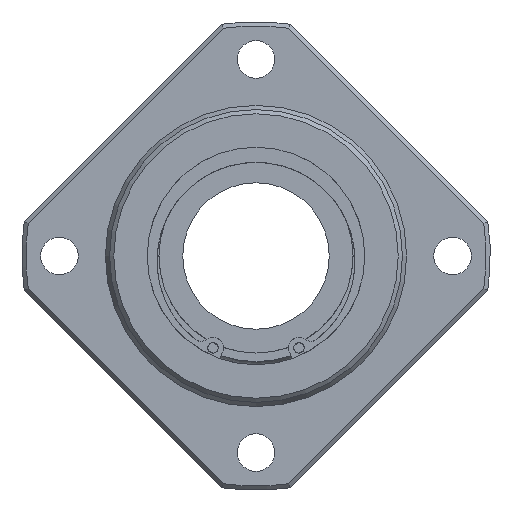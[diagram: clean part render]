
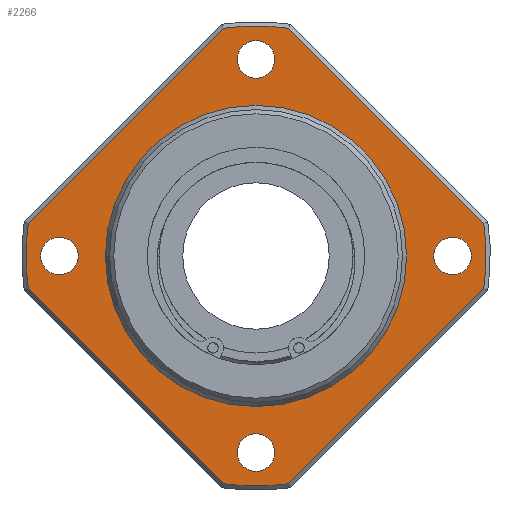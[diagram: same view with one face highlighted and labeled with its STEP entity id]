
A CAD part, left-side view. The second image highlights one B-rep face of the part: STEP entity #2266.
In plain terms, the highlighted planar face has unit normal (-1, 0, 0).
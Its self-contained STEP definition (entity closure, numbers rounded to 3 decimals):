
#1953=CARTESIAN_POINT('',(162.0,-7.778,-54.447));
#1954=VERTEX_POINT('',#1953);
#1962=CARTESIAN_POINT('',(162.0,7.778,-54.447));
#1963=VERTEX_POINT('',#1962);
#1964=CARTESIAN_POINT('',(162.0,0.0,0.0));
#1965=DIRECTION('',(1.0,0.0,0.0));
#1966=DIRECTION('',(0.0,0.0,-1.0));
#1967=AXIS2_PLACEMENT_3D('',#1964,#1965,#1966);
#1968=CIRCLE('',#1967,55.);
#1969=EDGE_CURVE('',#1954,#1963,#1968,.T.);
#1988=CARTESIAN_POINT('',(162.0,54.447,-7.778));
#1989=VERTEX_POINT('',#1988);
#1990=CARTESIAN_POINT('',(162.0,7.778,-54.447));
#1991=DIRECTION('',(0.0,0.707,0.707));
#1992=VECTOR('',#1991,66.);
#1993=LINE('',#1990,#1992);
#1994=EDGE_CURVE('',#1963,#1989,#1993,.T.);
#2021=CARTESIAN_POINT('',(162.0,54.447,7.778));
#2022=VERTEX_POINT('',#2021);
#2023=CARTESIAN_POINT('',(162.0,0.0,0.0));
#2024=DIRECTION('',(1.0,0.0,0.0));
#2025=DIRECTION('',(0.0,0.0,1.0));
#2026=AXIS2_PLACEMENT_3D('',#2023,#2024,#2025);
#2027=CIRCLE('',#2026,55.);
#2028=EDGE_CURVE('',#1989,#2022,#2027,.T.);
#2054=CARTESIAN_POINT('',(162.0,7.778,54.447));
#2055=VERTEX_POINT('',#2054);
#2056=CARTESIAN_POINT('',(162.0,54.447,7.778));
#2057=DIRECTION('',(0.0,-0.707,0.707));
#2058=VECTOR('',#2057,66.);
#2059=LINE('',#2056,#2058);
#2060=EDGE_CURVE('',#2022,#2055,#2059,.T.);
#2087=CARTESIAN_POINT('',(162.0,-7.778,54.447));
#2088=VERTEX_POINT('',#2087);
#2089=CARTESIAN_POINT('',(162.0,0.0,0.0));
#2090=DIRECTION('',(1.0,0.0,0.0));
#2091=DIRECTION('',(0.0,0.0,1.0));
#2092=AXIS2_PLACEMENT_3D('',#2089,#2090,#2091);
#2093=CIRCLE('',#2092,55.);
#2094=EDGE_CURVE('',#2055,#2088,#2093,.T.);
#2118=CARTESIAN_POINT('',(162.0,-54.447,7.778));
#2119=VERTEX_POINT('',#2118);
#2120=CARTESIAN_POINT('',(162.0,-7.778,54.447));
#2121=DIRECTION('',(0.0,-0.707,-0.707));
#2122=VECTOR('',#2121,66.);
#2123=LINE('',#2120,#2122);
#2124=EDGE_CURVE('',#2088,#2119,#2123,.T.);
#2143=CARTESIAN_POINT('',(162.0,-54.447,-7.778));
#2144=VERTEX_POINT('',#2143);
#2145=CARTESIAN_POINT('',(162.0,0.0,0.0));
#2146=DIRECTION('',(1.0,0.0,0.0));
#2147=DIRECTION('',(0.0,0.0,1.0));
#2148=AXIS2_PLACEMENT_3D('',#2145,#2146,#2147);
#2149=CIRCLE('',#2148,55.);
#2150=EDGE_CURVE('',#2119,#2144,#2149,.T.);
#2169=CARTESIAN_POINT('',(162.0,-54.447,-7.778));
#2170=DIRECTION('',(0.0,0.707,-0.707));
#2171=VECTOR('',#2170,66.0);
#2172=LINE('',#2169,#2171);
#2173=EDGE_CURVE('',#2144,#1954,#2172,.T.);
#2196=CARTESIAN_POINT('',(162.0,0.0,46.));
#2197=DIRECTION('',(-1.0,0.0,0.0));
#2198=DIRECTION('',(0.0,0.0,1.0));
#2199=AXIS2_PLACEMENT_3D('',#2196,#2197,#2198);
#2200=PLANE('',#2199);
#2201=ORIENTED_EDGE('',*,*,#1969,.F.);
#2202=ORIENTED_EDGE('',*,*,#2173,.F.);
#2203=ORIENTED_EDGE('',*,*,#2150,.F.);
#2204=ORIENTED_EDGE('',*,*,#2124,.F.);
#2205=ORIENTED_EDGE('',*,*,#2094,.F.);
#2206=ORIENTED_EDGE('',*,*,#2060,.F.);
#2207=ORIENTED_EDGE('',*,*,#2028,.F.);
#2208=ORIENTED_EDGE('',*,*,#1994,.F.);
#2209=EDGE_LOOP('',(#2201,#2202,#2203,#2204,#2205,#2206,#2207,#2208));
#2210=FACE_OUTER_BOUND('',#2209,.T.);
#2211=CARTESIAN_POINT('',(162.0,0.0,36.));
#2212=VERTEX_POINT('',#2211);
#2213=CARTESIAN_POINT('',(162.0,0.0,0.0));
#2214=DIRECTION('',(-1.0,0.0,0.0));
#2215=DIRECTION('',(0.0,0.0,1.0));
#2216=AXIS2_PLACEMENT_3D('',#2213,#2214,#2215);
#2217=CIRCLE('',#2216,36.);
#2218=EDGE_CURVE('',#2212,#2212,#2217,.T.);
#2219=ORIENTED_EDGE('',*,*,#2218,.F.);
#2220=EDGE_LOOP('',(#2219));
#2221=FACE_BOUND('',#2220,.T.);
#2222=CARTESIAN_POINT('',(162.0,4.5,47.0));
#2223=VERTEX_POINT('',#2222);
#2224=CARTESIAN_POINT('',(162.,0.,47.0));
#2225=DIRECTION('',(1.0,0.0,0.0));
#2226=DIRECTION('',(0.0,1.0,0.0));
#2227=AXIS2_PLACEMENT_3D('',#2224,#2225,#2226);
#2228=CIRCLE('',#2227,4.5);
#2229=EDGE_CURVE('',#2223,#2223,#2228,.T.);
#2230=ORIENTED_EDGE('',*,*,#2229,.T.);
#2231=EDGE_LOOP('',(#2230));
#2232=FACE_BOUND('',#2231,.T.);
#2233=CARTESIAN_POINT('',(162.0,-47.0,4.5));
#2234=VERTEX_POINT('',#2233);
#2235=CARTESIAN_POINT('',(162.,-47.0,0.));
#2236=DIRECTION('',(1.0,0.0,0.0));
#2237=DIRECTION('',(0.0,0.0,1.0));
#2238=AXIS2_PLACEMENT_3D('',#2235,#2236,#2237);
#2239=CIRCLE('',#2238,4.5);
#2240=EDGE_CURVE('',#2234,#2234,#2239,.T.);
#2241=ORIENTED_EDGE('',*,*,#2240,.T.);
#2242=EDGE_LOOP('',(#2241));
#2243=FACE_BOUND('',#2242,.T.);
#2244=CARTESIAN_POINT('',(162.0,-4.5,-47.0));
#2245=VERTEX_POINT('',#2244);
#2246=CARTESIAN_POINT('',(162.,0.,-47.0));
#2247=DIRECTION('',(1.0,0.0,0.0));
#2248=DIRECTION('',(0.0,-1.0,0.0));
#2249=AXIS2_PLACEMENT_3D('',#2246,#2247,#2248);
#2250=CIRCLE('',#2249,4.5);
#2251=EDGE_CURVE('',#2245,#2245,#2250,.T.);
#2252=ORIENTED_EDGE('',*,*,#2251,.T.);
#2253=EDGE_LOOP('',(#2252));
#2254=FACE_BOUND('',#2253,.T.);
#2255=CARTESIAN_POINT('',(162.0,47.0,-4.5));
#2256=VERTEX_POINT('',#2255);
#2257=CARTESIAN_POINT('',(162.,47.0,0.));
#2258=DIRECTION('',(1.0,0.0,0.0));
#2259=DIRECTION('',(0.0,0.0,-1.0));
#2260=AXIS2_PLACEMENT_3D('',#2257,#2258,#2259);
#2261=CIRCLE('',#2260,4.5);
#2262=EDGE_CURVE('',#2256,#2256,#2261,.T.);
#2263=ORIENTED_EDGE('',*,*,#2262,.T.);
#2264=EDGE_LOOP('',(#2263));
#2265=FACE_BOUND('',#2264,.T.);
#2266=ADVANCED_FACE('',(#2210,#2221,#2232,#2243,#2254,#2265),#2200,.T.);
